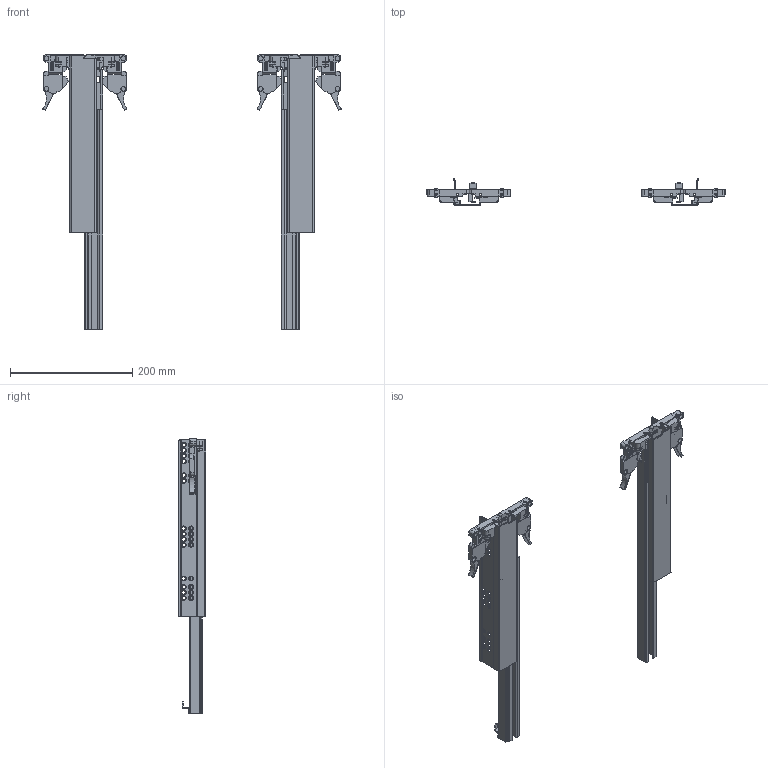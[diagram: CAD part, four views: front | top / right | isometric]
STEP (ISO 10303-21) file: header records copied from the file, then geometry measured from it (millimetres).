
FILE_DESCRIPTION(/* description */ (''),/* implementation_level */ '2;1');
FILE_NAME(/* name */ 'D:\$Workingspace\Designs\Katalog\Cadsoft\GTV Prowadnice\PB-3D0SHX18PRO\PB-3D0SHX18PRO_HD\PB-3D0SHX18-450-PRO.stp',/* time_stamp */ '2021-08-30T09:27:03+02:00',/* author */ ('tomaszw'),/* organization */ (''),/* preprocessor_version */ 'ST-DEVELOPER v18.1',/* originating_system */ 'Autodesk Inventor 2021',/* authorisation */ '');
FILE_SCHEMA (('AUTOMOTIVE_DESIGN { 1 0 10303 214 3 1 1 }'));
Length unit declared in the file: millimetre
Products named in the file (24): PB-3D0SHX18-450_H_PRO; PB-3D0SHX18-CL-450_PRO; PB-3D0SHX18-CR-450_PRO; PB-3D0SHX18-DL-450_H_PRO; PB-3D0SHX18-DR-450_H_PRO; PB-3D0SHX18-DWL-450_H_PRO; PB-3D0SHX18-DWR-450_H_PRO; sprzęgło_ PB-3D0SHX..-PRO; sprzegło_1_ PB-3D0SHX..-PRO; sprzegło_2_ PB-3D0SHX..-PRO; sprzegło_3_ PB-3D0SHX..-PRO; sprzegło_4_ PB-3D0SHX..-PRO; sprzegło_5_ PB-3D0SHX..-PRO; sprzegło_6_ PB-3D0SHX..-PRO; sprzegło_7_ PB-3D0SHX..-PRO; sprzegło_8_ PB-3D0SHX..-PRO; sprzegło_1_ PB-3D0SHX..-PRO_MIR; sprzegło_2_ PB-3D0SHX..-PRO_MIR; sprzegło_3_ PB-3D0SHX..-PRO_MIR; sprzegło_4_ PB-3D0SHX..-PRO_MIR; sprzegło_5_ PB-3D0SHX..-PRO_MIR; sprzegło_6_ PB-3D0SHX..-PRO_MIR; sprzegło_7_ PB-3D0SHX..-PRO_MIR; sprzegło_8_ PB-3D0SHX..-PRO_MIR
Assembly tree (24 placements, depth 3):
  PB-3D0SHX18-450_H_PRO
    PB-3D0SHX18-CL-450_PRO
    PB-3D0SHX18-CR-450_PRO
    PB-3D0SHX18-DL-450_H_PRO
    PB-3D0SHX18-DR-450_H_PRO
    PB-3D0SHX18-DWL-450_H_PRO
    PB-3D0SHX18-DWR-450_H_PRO
    sprzęgło_ PB-3D0SHX..-PRO  x2
      sprzegło_1_ PB-3D0SHX..-PRO
      sprzegło_2_ PB-3D0SHX..-PRO
      sprzegło_3_ PB-3D0SHX..-PRO
      sprzegło_4_ PB-3D0SHX..-PRO
      sprzegło_5_ PB-3D0SHX..-PRO
      sprzegło_6_ PB-3D0SHX..-PRO
      sprzegło_7_ PB-3D0SHX..-PRO
      sprzegło_8_ PB-3D0SHX..-PRO
      sprzegło_1_ PB-3D0SHX..-PRO_MIR
      sprzegło_2_ PB-3D0SHX..-PRO_MIR
      sprzegło_3_ PB-3D0SHX..-PRO_MIR
      sprzegło_4_ PB-3D0SHX..-PRO_MIR
      sprzegło_5_ PB-3D0SHX..-PRO_MIR
      sprzegło_6_ PB-3D0SHX..-PRO_MIR
      sprzegło_7_ PB-3D0SHX..-PRO_MIR
      sprzegło_8_ PB-3D0SHX..-PRO_MIR
Bounding box: 488.77 x 45 x 450 mm (x, y, z)
Volume: 347176.1 mm3; surface area: 399906.7 mm2
Topology: 46 solids, 46 shells, 1754 faces, 4712 edges, 3042 vertices
Faces by surface type: plane 1150, cylinder 464, cone 136, bspline 4
Full cylindrical faces by diameter (mm): 3 x12, 4 x12, 5 x8, 6 x56, 8 x8
Entity records: 34789 total; most frequent: CARTESIAN_POINT 6007, ORIENTED_EDGE 5700, DIRECTION 5656, EDGE_CURVE 2850, LINE 2098, VECTOR 2098, VERTEX_POINT 1836, AXIS2_PLACEMENT_3D 1779
